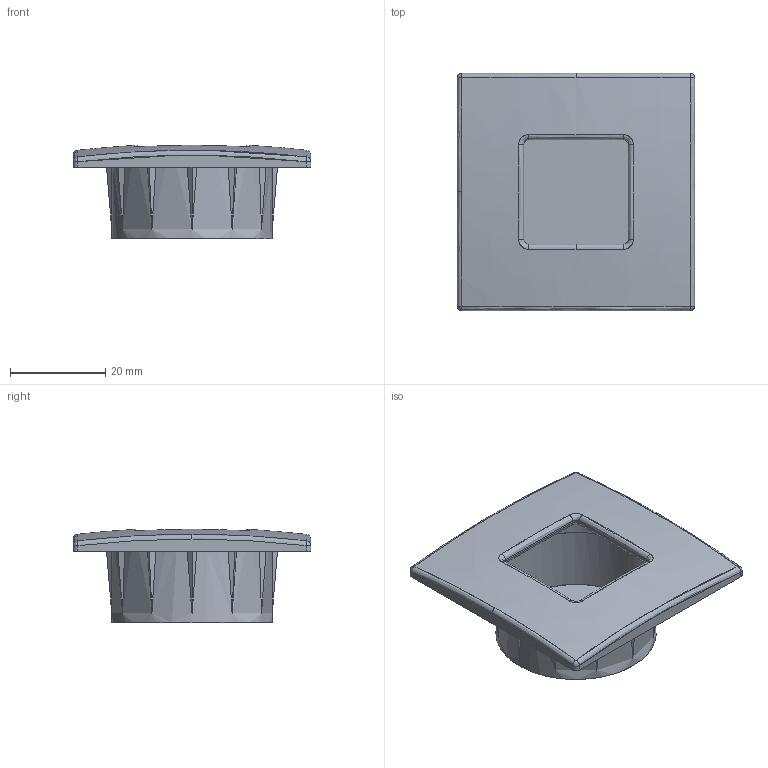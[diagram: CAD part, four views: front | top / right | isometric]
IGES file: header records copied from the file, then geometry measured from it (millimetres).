
Start section: C
Global section: file name: 8078.igs; native system: By Siemens PLM Incorporated; preprocessor: XPlus GENERIC/IGES 16.0.42; author: Author; organization: Title; date: 20231128.124008; units: millimetre
Bounding box: 50 x 50 x 19.65 mm (x, y, z)
Surface area: 10616.4 mm2 (no closed solid volume)
Topology: 0 solids, 0 shells, 137 faces, 666 edges, 666 vertices
Faces by surface type: bspline 137
